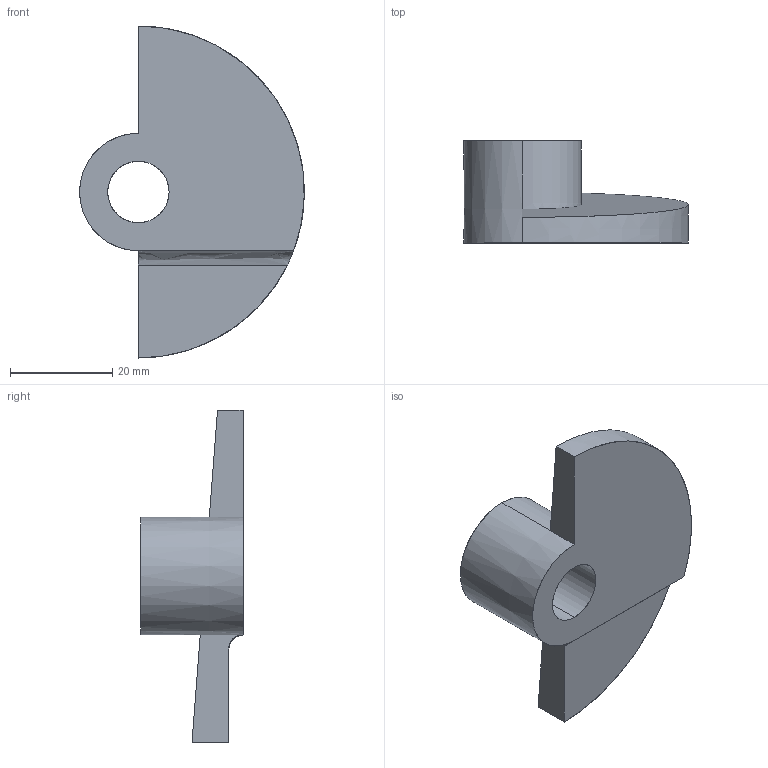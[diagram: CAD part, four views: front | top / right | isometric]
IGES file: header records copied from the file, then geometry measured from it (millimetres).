
Start section: SolidWorks IGES file using analytic representation for surfaces
Global section: file name: C:\Documents and Settings\IANO\Desktop\Temp File\Process pending\EXISTING\36820_v2\36820_v2_20170629_IGES\Default.igs; native system: SolidWorks 2009; preprocessor: SolidWorks 2009; author: IANO; date: 170627.113832; units: millimetre
Bounding box: 44 x 20 x 65 mm (x, y, z)
Surface area: 6403.8 mm2 (no closed solid volume)
Topology: 0 solids, 0 shells, 12 faces, 271 edges, 271 vertices
Faces by surface type: revolution 6, bspline 6
